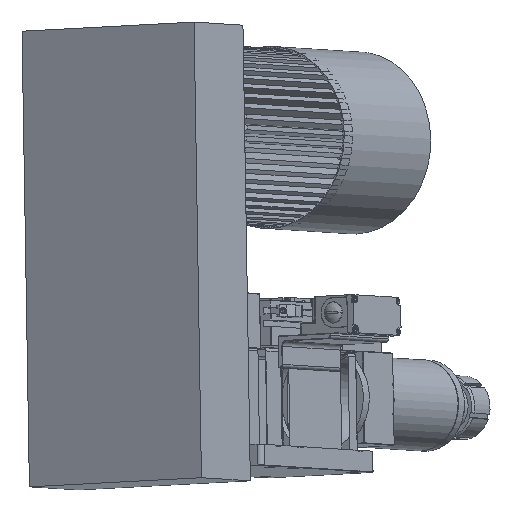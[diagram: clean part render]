
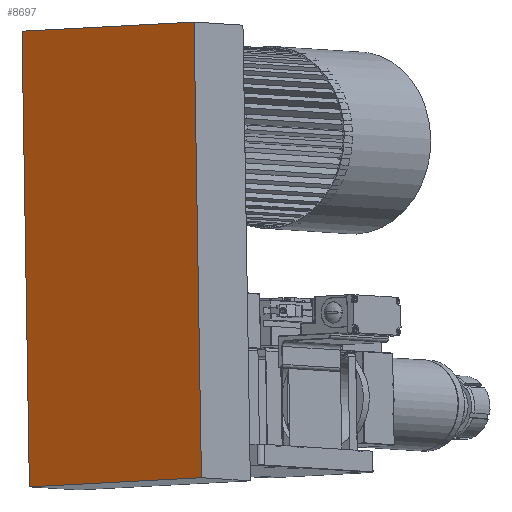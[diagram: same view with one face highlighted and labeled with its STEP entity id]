
A CAD part, left-side view. The second image highlights one B-rep face of the part: STEP entity #8697.
In plain terms, the highlighted planar face has unit normal (-0.827, 0.562, 0.036).
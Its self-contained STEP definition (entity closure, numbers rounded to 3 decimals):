
#8658=CARTESIAN_POINT('',(-173.694,109.967,208.609));
#8659=DIRECTION('',(0.826,-0.562,-0.036));
#8660=DIRECTION('',(0.56,0.827,-0.044));
#8661=AXIS2_PLACEMENT_3D('',#8658,#8659,#8660);
#8662=PLANE('',#8661);
#8663=CARTESIAN_POINT('',(-216.968,32.391,427.557));
#8664=VERTEX_POINT('',#8663);
#8665=CARTESIAN_POINT('',(-107.138,194.501,418.974));
#8666=VERTEX_POINT('',#8665);
#8667=CARTESIAN_POINT('',(-216.968,32.391,427.557));
#8668=DIRECTION('',(0.56,0.827,-0.044));
#8669=VECTOR('',#8668,196.);
#8670=LINE('',#8667,#8669);
#8671=EDGE_CURVE('',#8664,#8666,#8670,.T.);
#8672=ORIENTED_EDGE('',*,*,#8671,.T.);
#8673=CARTESIAN_POINT('',(-130.42,187.543,-10.339));
#8674=VERTEX_POINT('',#8673);
#8675=CARTESIAN_POINT('',(-107.138,194.501,418.974));
#8676=DIRECTION('',(-0.054,-0.016,-0.998));
#8677=VECTOR('',#8676,430.);
#8678=LINE('',#8675,#8677);
#8679=EDGE_CURVE('',#8666,#8674,#8678,.T.);
#8680=ORIENTED_EDGE('',*,*,#8679,.T.);
#8681=CARTESIAN_POINT('',(-240.25,25.433,-1.755));
#8682=VERTEX_POINT('',#8681);
#8683=CARTESIAN_POINT('',(-130.42,187.543,-10.339));
#8684=DIRECTION('',(-0.56,-0.827,0.044));
#8685=VECTOR('',#8684,196.);
#8686=LINE('',#8683,#8685);
#8687=EDGE_CURVE('',#8674,#8682,#8686,.T.);
#8688=ORIENTED_EDGE('',*,*,#8687,.T.);
#8689=CARTESIAN_POINT('',(-240.25,25.433,-1.755));
#8690=DIRECTION('',(0.054,0.016,0.998));
#8691=VECTOR('',#8690,430.);
#8692=LINE('',#8689,#8691);
#8693=EDGE_CURVE('',#8682,#8664,#8692,.T.);
#8694=ORIENTED_EDGE('',*,*,#8693,.T.);
#8695=EDGE_LOOP('',(#8672,#8680,#8688,#8694));
#8696=FACE_OUTER_BOUND('',#8695,.T.);
#8697=ADVANCED_FACE('',(#8696),#8662,.F.);
